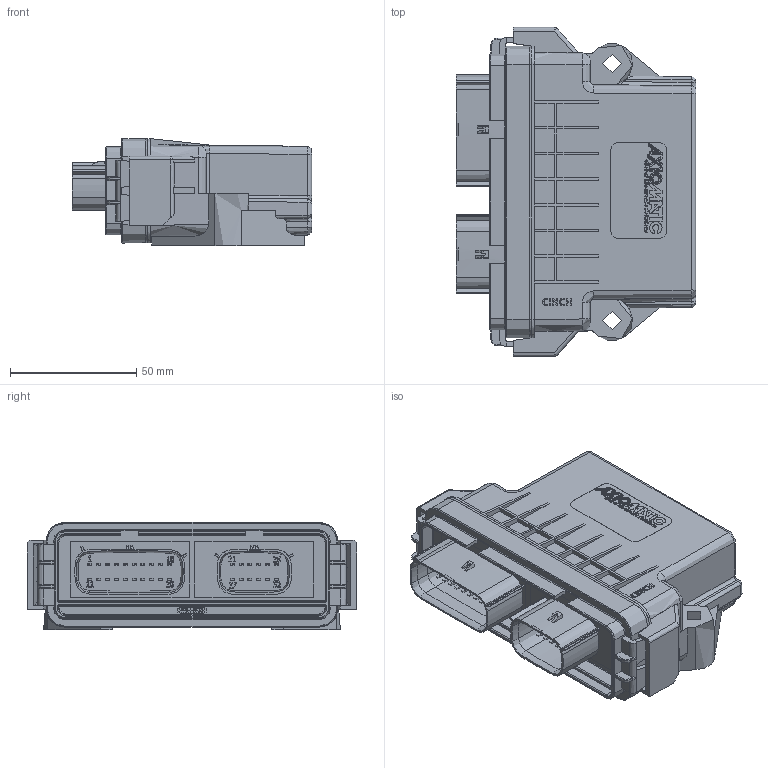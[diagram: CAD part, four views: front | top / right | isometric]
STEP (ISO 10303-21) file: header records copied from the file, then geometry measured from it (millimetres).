
FILE_DESCRIPTION(/* description */ ('32 position CINCH header with a MINI ME-MX enclosure'),/* implementation_level */ '2;1');
FILE_NAME(/* name */ 'S:\Projects\GENERIC LABELS\CINCH\CINCH MINI ME-MX 32 pin version.stp',/* time_stamp */ '2025-01-30T16:03:28-05:00',/* author */ ('AutoDeskUser'),/* organization */ (''),/* preprocessor_version */ 'ST-DEVELOPER v18.1',/* originating_system */ 'Autodesk Inventor 2021',/* authorisation */ '');
FILE_SCHEMA (('AUTOMOTIVE_DESIGN { 1 0 10303 214 3 1 1 }'));
Products named in the file (1): CINCH 581 01 32 011
Bounding box: 94.85 x 130.25 x 42.33 mm (x, y, z)
Volume: 106510.4 mm3; surface area: 99368.3 mm2
Topology: 2 solids, 3 shells, 5281 faces, 14509 edges, 9318 vertices
Faces by surface type: plane 3975, cylinder 580, bspline 556, torus 104, cone 52, sphere 14
Full cylindrical faces by diameter (mm): 2.54 x1, 3.683 x1, 5.004 x1, 5.994 x1, 7.417 x2, 8.001 x1
Entity records: 184180 total; most frequent: CARTESIAN_POINT 46700, ORIENTED_EDGE 29010, DIRECTION 24671, EDGE_CURVE 14505, LINE 11977, VECTOR 11977, VERTEX_POINT 9318, AXIS2_PLACEMENT_3D 6347
